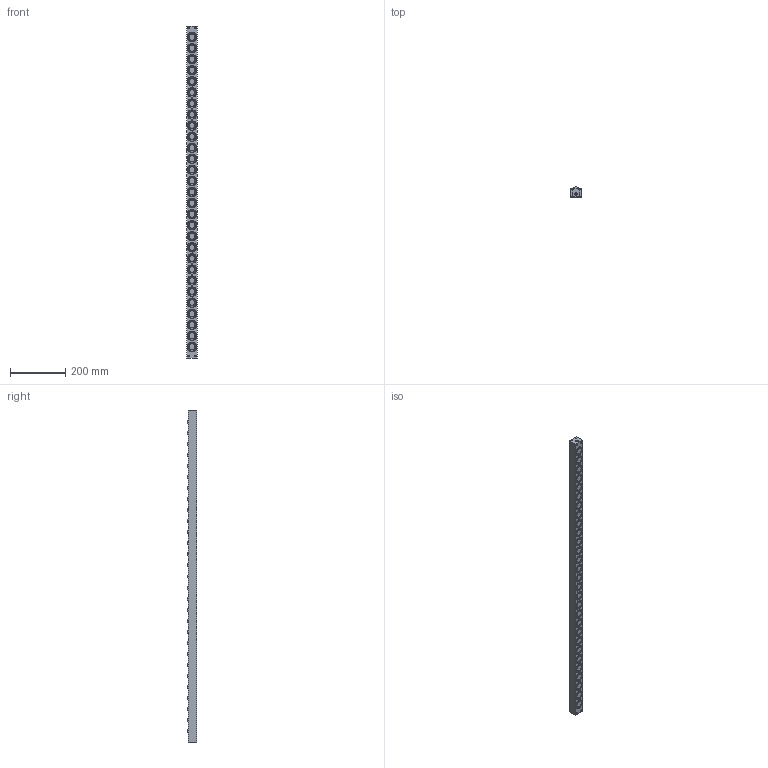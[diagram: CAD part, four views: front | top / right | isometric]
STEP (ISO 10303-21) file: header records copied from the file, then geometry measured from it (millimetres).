
FILE_DESCRIPTION (( 'STEP AP203' ), '1' );
FILE_NAME ('PVL30S-29.STEP', '2016-02-18T05:29:44', ( '' ), ( '' ), 'SwSTEP 2.0', 'SolidWorks 2013', '' );
FILE_SCHEMA (( 'CONFIG_CONTROL_DESIGN' ));
Length unit declared in the file: millimetre
Products named in the file (1): PVL30S-29
Bounding box: 38 x 36 x 1200 mm (x, y, z)
Volume: 1393604.1 mm3; surface area: 214752.6 mm2
Topology: 1 solids, 1 shells, 932 faces, 2193 edges, 1470 vertices
Faces by surface type: cylinder 598, plane 272, sphere 58, cone 4
Entity records: 27626 total; most frequent: DIRECTION 5431, CARTESIAN_POINT 4594, ORIENTED_EDGE 4382, AXIS2_PLACEMENT_3D 2307, EDGE_CURVE 2191, VERTEX_POINT 1470, CIRCLE 1374, EDGE_LOOP 1149
